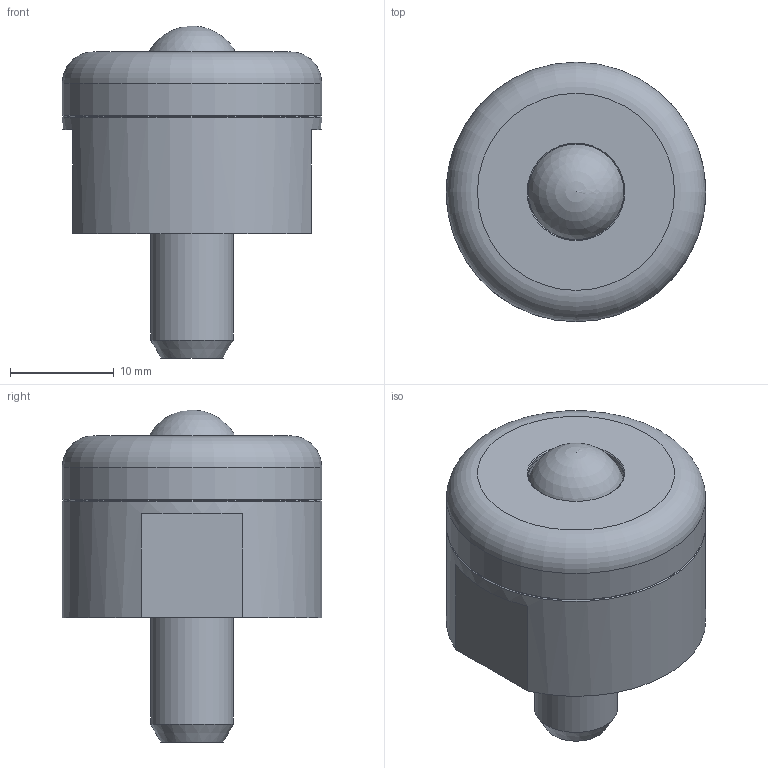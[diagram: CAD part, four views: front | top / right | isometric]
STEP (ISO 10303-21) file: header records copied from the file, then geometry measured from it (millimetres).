
FILE_DESCRIPTION(/* description */ (''),/* implementation_level */ '2;1');
FILE_NAME(/* name */ 'Z:\34-Tei\web 3Dデータ\ISCHA-10\ISCHA-10FS-J型.stp',/* time_stamp */ '2015-01-06T09:45:23+09:00',/* author */ ('yamaki'),/* organization */ (''),/* preprocessor_version */ 'ST-DEVELOPER v15.6',/* originating_system */ 'Autodesk Inventor 2015',/* authorisation */ '');
FILE_SCHEMA (('AUTOMOTIVE_DESIGN { 1 0 10303 214 3 1 1 }'));
Length unit declared in the file: millimetre
Products named in the file (1): ISCHA-10FS-J型
Bounding box: 25 x 25 x 32 mm (x, y, z)
Volume: 8696 mm3; surface area: 3062.2 mm2
Topology: 1 solids, 1 shells, 26 faces, 50 edges, 31 vertices
Faces by surface type: plane 11, cylinder 7, cone 6, sphere 1, torus 1
Full cylindrical faces by diameter (mm): 4.2 x1, 8 x1, 8.2 x1, 9.203 x1, 9.8 x1, 25 x2
Entity records: 584 total; most frequent: DIRECTION 110, CARTESIAN_POINT 87, ORIENTED_EDGE 64, AXIS2_PLACEMENT_3D 51, EDGE_LOOP 46, EDGE_CURVE 32, VERTEX_POINT 28, FACE_OUTER_BOUND 26
